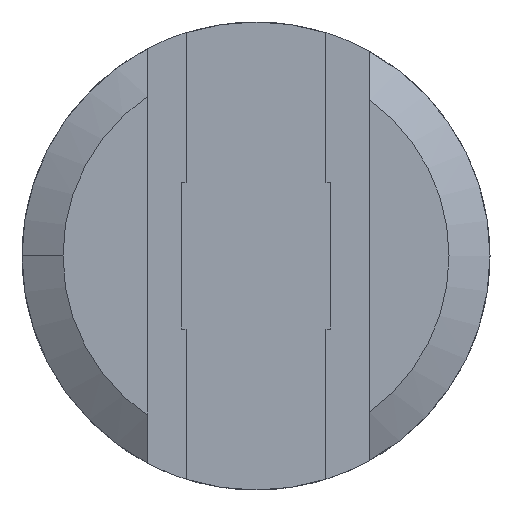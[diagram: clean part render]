
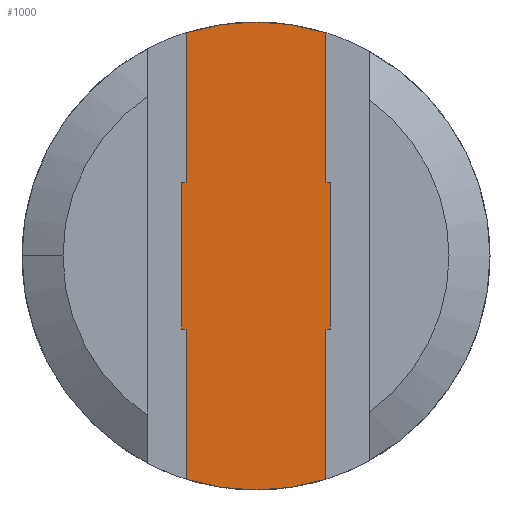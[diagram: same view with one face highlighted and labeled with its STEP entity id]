
A CAD part, top view. The second image highlights one B-rep face of the part: STEP entity #1000.
In plain terms, the highlighted planar face has unit normal (0, 0, 1).
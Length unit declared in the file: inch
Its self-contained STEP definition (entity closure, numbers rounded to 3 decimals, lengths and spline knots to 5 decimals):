
#86=CARTESIAN_POINT('',(0.,0.,0.4));
#87=DIRECTION('',(0.,0.,1.));
#88=DIRECTION('',(0.299,0.954,0.));
#89=AXIS2_PLACEMENT_3D('',#86,#87,#88);
#190=CARTESIAN_POINT('',(0.,0.,0.4));
#191=DIRECTION('',(0.,0.,1.));
#192=DIRECTION('',(-0.299,-0.954,0.));
#193=AXIS2_PLACEMENT_3D('',#190,#191,#192);
#269=DIRECTION('',(0.,1.,0.));
#270=VECTOR('',#269,0.64183);
#271=CARTESIAN_POINT('',(0.29875,0.3125,
0.4));
#272=LINE('',#271,#270);
#273=DIRECTION('',(-1.,0.,0.));
#274=VECTOR('',#273,0.01875);
#275=CARTESIAN_POINT('',(0.3175,0.3125,0.4));
#276=LINE('',#275,#274);
#277=DIRECTION('',(0.,1.,0.));
#278=VECTOR('',#277,0.625);
#279=CARTESIAN_POINT('',(0.3175,-0.3125,0.4));
#280=LINE('',#279,#278);
#281=DIRECTION('',(1.,0.,0.));
#282=VECTOR('',#281,0.01875);
#283=CARTESIAN_POINT('',(0.29875,-0.3125,
0.4));
#284=LINE('',#283,#282);
#285=DIRECTION('',(0.,1.,0.));
#286=VECTOR('',#285,0.64183);
#287=CARTESIAN_POINT('',(0.29875,-0.95433,
0.4));
#288=LINE('',#287,#286);
#289=DIRECTION('',(0.,1.,0.));
#290=VECTOR('',#289,0.625);
#291=CARTESIAN_POINT('',(-0.3175,-0.3125,0.4));
#292=LINE('',#291,#290);
#293=DIRECTION('',(0.,1.,0.));
#294=VECTOR('',#293,0.64183);
#295=CARTESIAN_POINT('',(-0.29875,0.3125,
0.4));
#296=LINE('',#295,#294);
#331=DIRECTION('',(1.,0.,0.));
#332=VECTOR('',#331,0.01875);
#333=CARTESIAN_POINT('',(-0.3175,0.3125,0.4));
#334=LINE('',#333,#332);
#343=DIRECTION('',(-1.,0.,0.));
#344=VECTOR('',#343,0.01875);
#345=CARTESIAN_POINT('',(-0.29875,-0.3125,
0.4));
#346=LINE('',#345,#344);
#351=DIRECTION('',(0.,1.,0.));
#352=VECTOR('',#351,0.64183);
#353=CARTESIAN_POINT('',(-0.29875,-0.95433,
0.4));
#354=LINE('',#353,#352);
#555=CARTESIAN_POINT('',(0.29875,0.95433,
0.4));
#557=VERTEX_POINT('',#555);
#560=CARTESIAN_POINT('',(-0.29875,0.95433,
0.4));
#562=VERTEX_POINT('',#560);
#597=CARTESIAN_POINT('',(-0.29875,-0.95433,
0.4));
#599=VERTEX_POINT('',#597);
#602=CARTESIAN_POINT('',(0.29875,-0.95433,
0.4));
#604=VERTEX_POINT('',#602);
#613=CARTESIAN_POINT('',(0.29875,0.3125,
0.4));
#614=VERTEX_POINT('',#613);
#615=CARTESIAN_POINT('',(0.3175,0.3125,0.4));
#616=VERTEX_POINT('',#615);
#617=CARTESIAN_POINT('',(0.3175,-0.3125,0.4));
#618=VERTEX_POINT('',#617);
#619=CARTESIAN_POINT('',(0.29875,-0.3125,
0.4));
#620=VERTEX_POINT('',#619);
#621=CARTESIAN_POINT('',(-0.29875,0.3125,
0.4));
#622=VERTEX_POINT('',#621);
#631=CARTESIAN_POINT('',(-0.3175,0.3125,0.4));
#632=VERTEX_POINT('',#631);
#633=CARTESIAN_POINT('',(-0.3175,-0.3125,0.4));
#634=VERTEX_POINT('',#633);
#635=CARTESIAN_POINT('',(-0.29875,-0.3125,
0.4));
#636=VERTEX_POINT('',#635);
#972=CARTESIAN_POINT('',(0.,0.,0.4));
#973=DIRECTION('',(0.,0.,1.));
#974=DIRECTION('',(1.,0.,0.));
#975=AXIS2_PLACEMENT_3D('',#972,#973,#974);
#976=PLANE('',#975);
#978=ORIENTED_EDGE('',*,*,#977,.T.);
#979=ORIENTED_EDGE('',*,*,#786,.F.);
#981=ORIENTED_EDGE('',*,*,#980,.F.);
#983=ORIENTED_EDGE('',*,*,#982,.F.);
#985=ORIENTED_EDGE('',*,*,#984,.F.);
#987=ORIENTED_EDGE('',*,*,#986,.F.);
#988=ORIENTED_EDGE('',*,*,#958,.F.);
#989=ORIENTED_EDGE('',*,*,#857,.F.);
#991=ORIENTED_EDGE('',*,*,#990,.T.);
#993=ORIENTED_EDGE('',*,*,#992,.T.);
#995=ORIENTED_EDGE('',*,*,#994,.T.);
#997=ORIENTED_EDGE('',*,*,#996,.T.);
#998=EDGE_LOOP('',(#978,#979,#981,#983,#985,#987,#988,#989,#991,#993,#995,
#997));
#999=FACE_OUTER_BOUND('',#998,.F.);
#90=CIRCLE('',#89,1.);
#194=CIRCLE('',#193,1.);
#786=EDGE_CURVE('',#557,#562,#90,.T.);
#857=EDGE_CURVE('',#599,#604,#194,.T.);
#958=EDGE_CURVE('',#604,#620,#288,.T.);
#977=EDGE_CURVE('',#622,#562,#296,.T.);
#980=EDGE_CURVE('',#614,#557,#272,.T.);
#982=EDGE_CURVE('',#616,#614,#276,.T.);
#984=EDGE_CURVE('',#618,#616,#280,.T.);
#986=EDGE_CURVE('',#620,#618,#284,.T.);
#990=EDGE_CURVE('',#599,#636,#354,.T.);
#992=EDGE_CURVE('',#636,#634,#346,.T.);
#994=EDGE_CURVE('',#634,#632,#292,.T.);
#996=EDGE_CURVE('',#632,#622,#334,.T.);
#1000=ADVANCED_FACE('',(#999),#976,.T.);
